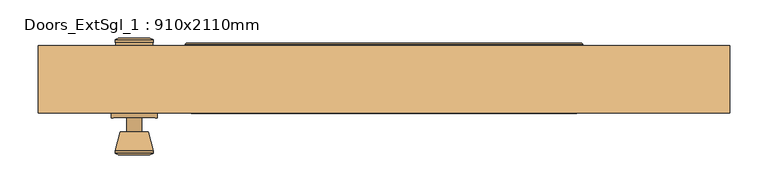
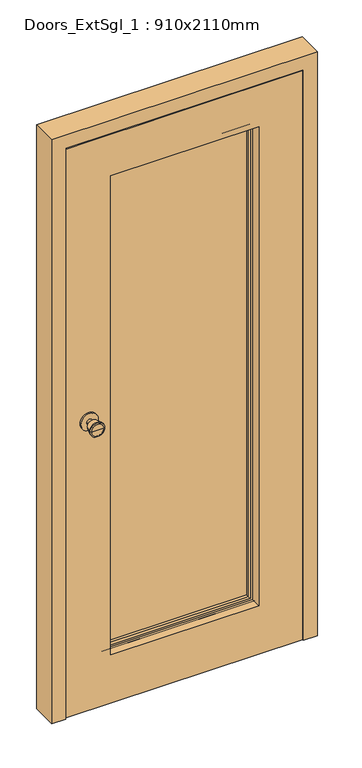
"""IFC4 building model written with IfcOpenShell, lengths in millimetres: door geometry, Doors_ExtSgl_1 : 910x2110mm."""

from ifc_helpers import new_model, si_unit, point, frame, frame_2d, origin, place, context, project, spatial, polyline, circle_curve, ellipse_curve, trimmed, segment, composite_curve, outline, extrude, faceted_brep, source, transform, mapped, element, save
from ifc_brep_helpers import plane_surface, cylinder_surface, revolved_surface, advanced_brep


def doors_extsgl_1_910x2110mm_947c59ca(model_context):
    return source(origin(), model_context, "Body", "SolidModel", [
        advanced_brep(
        [(-328.5, -12.0, 1050.0), (-318.5, -12.0, 1050.0), (-338.5, -12.0, 1050.0), (-308.0241324, -61.0, 1050.0), (-328.5, -61.0, 1050.0), (-348.9758676, -61.0, 1050.0), (-303.5, -59.1721319, 1050.0), (-353.5, -59.1721319, 1050.0), (-303.5, -55.7084537, 1050.0), (-353.5, -55.7084537, 1050.0), (-309.863764, -31.0, 1050.0), (-347.136236, -31.0, 1050.0), (-318.5, -31.0, 1050.0), (-338.5, -31.0, 1050.0)],
        [
            (0, 1),
            (1, 2, circle_curve(frame((-328.5, -12.0, 1050.0), z_axis=(0.0, 1.0, 0.0), x_axis=(-1.0, 0.0, 0.0)), 10.0)),
            (2, 0),
            (2, 1, circle_curve(frame((-328.5, -12.0, 1050.0), z_axis=(0.0, 1.0, 0.0), x_axis=(-1.0, 0.0, 0.0)), 10.0)),
            (3, 4),
            (4, 5),
            (5, 3, circle_curve(frame((-328.5, -61.0, 1050.0), z_axis=(0.0, -1.0, 0.0), x_axis=(-1.0, 0.0, 0.0)), 20.4758676)),
            (3, 5, circle_curve(frame((-328.5, -61.0, 1050.0), z_axis=(0.0, -1.0, 0.0), x_axis=(-1.0, 0.0, 0.0)), 20.4758676)),
            (6, 3),
            (5, 7),
            (7, 6, circle_curve(frame((-328.5, -59.1721319, 1050.0), z_axis=(0.0, -1.0, 0.0), x_axis=(-1.0, 0.0, 0.0)), 25.0)),
            (6, 7, circle_curve(frame((-328.5, -59.1721319, 1050.0), z_axis=(0.0, -1.0, 0.0), x_axis=(-1.0, 0.0, 0.0)), 25.0)),
            (8, 6),
            (7, 9),
            (9, 8, circle_curve(frame((-328.5, -55.7084537, 1050.0), z_axis=(0.0, -1.0, 0.0), x_axis=(-1.0, 0.0, 0.0)), 25.0)),
            (8, 9, circle_curve(frame((-328.5, -55.7084537, 1050.0), z_axis=(0.0, -1.0, 0.0), x_axis=(-1.0, 0.0, 0.0)), 25.0)),
            (10, 8),
            (9, 11),
            (11, 10, circle_curve(frame((-328.5, -31.0, 1050.0), z_axis=(0.0, -1.0, 0.0), x_axis=(-1.0, 0.0, 0.0)), 18.636236)),
            (10, 11, circle_curve(frame((-328.5, -31.0, 1050.0), z_axis=(0.0, -1.0, 0.0), x_axis=(-1.0, 0.0, 0.0)), 18.636236)),
            (12, 10),
            (11, 13),
            (13, 12, circle_curve(frame((-328.5, -31.0, 1050.0), z_axis=(0.0, -1.0, 0.0), x_axis=(-1.0, 0.0, 0.0)), 10.0)),
            (12, 13, circle_curve(frame((-328.5, -31.0, 1050.0), z_axis=(0.0, -1.0, 0.0), x_axis=(-1.0, 0.0, 0.0)), 10.0)),
            (1, 12),
            (13, 2),
        ],
        [
            plane_surface(frame((-328.5, -12.0, 1050.0), z_axis=(0.0, 1.0, 0.0), x_axis=(-1.0, 0.0, 0.0))),
            plane_surface(frame((-328.5, -61.0, 1050.0), z_axis=(0.0, -1.0, 0.0), x_axis=(-1.0, 0.0, 0.0))),
            revolved_surface(polyline([(-348.9758676, -61.0, 1050.0), (-353.5, -59.1721319, 1050.0)]), (-328.5, -12.0, 1050.0), (0.0, 1.0, 0.0)),
            cylinder_surface(frame((-328.5, -12.0, 1050.0), z_axis=(0.0, 1.0, 0.0), x_axis=(-1.0, 0.0, 0.0)), 25.0),
            revolved_surface(polyline([(-353.5, -55.7084537, 1050.0), (-347.136236, -31.0, 1050.0)]), (-328.5, -12.0, 1050.0), (0.0, 1.0, 0.0)),
            plane_surface(frame((-328.5, -31.0, 1050.0), z_axis=(0.0, 1.0, 0.0), x_axis=(-1.0, 0.0, 0.0))),
            cylinder_surface(frame((-328.5, -12.0, 1050.0), z_axis=(0.0, 1.0, 0.0), x_axis=(-1.0, 0.0, 0.0)), 10.0),
        ],
        [
            (0, [[1, 2, 3]]),
            (0, [[-3, 4, -1]]),
            (1, [[5, 6, 7]]),
            (1, [[-6, -5, 8]]),
            (2, [[9, -7, 10, 11]]),
            (2, [[-10, -8, -9, 12]]),
            (3, [[13, -11, 14, 15]]),
            (3, [[-14, -12, -13, 16]]),
            (4, [[17, -15, 18, 19]]),
            (4, [[-18, -16, -17, 20]]),
            (5, [[21, -19, 22, 23]]),
            (5, [[-22, -20, -21, 24]]),
            (6, [[25, -23, 26, -2]]),
            (6, [[-26, -24, -25, -4]]),
        ],
    ),
        extrude(outline(composite_curve([segment(trimmed(circle_curve(frame_2d((1050.0, -328.5)), 30.0), [point((1050.0, -358.5))], [point((1050.0, -298.5))], False, "CARTESIAN"), True, "CONTINUOUS"), segment(trimmed(circle_curve(frame_2d((1050.0, -328.5)), 30.0), [point((1050.0, -298.5))], [point((1050.0, -358.5))], False, "CARTESIAN"), True, "CONTINUOUS")], self_intersect=False)), frame((0.0, -12.0, 0.0), z_axis=(0.0, 1.0, 0.0), x_axis=(0.0, 0.0, 1.0)), (0.0, 0.0, 1.0), 6.0),
        advanced_brep(
        [(-328.5, 44.0, 1050.0), (-338.5, 44.0, 1050.0), (-318.5, 44.0, 1050.0), (-308.0241324, 93.0, 1050.0), (-348.9758676, 93.0, 1050.0), (-328.5, 93.0, 1050.0), (-303.5, 91.1721319, 1050.0), (-353.5, 91.1721319, 1050.0), (-303.5, 87.7084537, 1050.0), (-353.5, 87.7084537, 1050.0), (-309.863764, 63.0, 1050.0), (-347.136236, 63.0, 1050.0), (-318.5, 63.0, 1050.0), (-338.5, 63.0, 1050.0)],
        [
            (0, 1),
            (1, 2, circle_curve(frame((-328.5, 44.0, 1050.0), z_axis=(0.0, -1.0, 0.0), x_axis=(-1.0, 0.0, 0.0)), 10.0)),
            (2, 0),
            (2, 1, circle_curve(frame((-328.5, 44.0, 1050.0), z_axis=(0.0, -1.0, 0.0), x_axis=(-1.0, 0.0, 0.0)), 10.0)),
            (3, 4, circle_curve(frame((-328.5, 93.0, 1050.0), z_axis=(0.0, 1.0, 0.0), x_axis=(-1.0, 0.0, 0.0)), 20.4758676)),
            (4, 5),
            (5, 3),
            (4, 3, circle_curve(frame((-328.5, 93.0, 1050.0), z_axis=(0.0, 1.0, 0.0), x_axis=(-1.0, 0.0, 0.0)), 20.4758676)),
            (6, 7, circle_curve(frame((-328.5, 91.1721319, 1050.0), z_axis=(0.0, 1.0, 0.0), x_axis=(-1.0, 0.0, 0.0)), 25.0)),
            (7, 4),
            (3, 6),
            (7, 6, circle_curve(frame((-328.5, 91.1721319, 1050.0), z_axis=(0.0, 1.0, 0.0), x_axis=(-1.0, 0.0, 0.0)), 25.0)),
            (8, 9, circle_curve(frame((-328.5, 87.7084537, 1050.0), z_axis=(0.0, 1.0, 0.0), x_axis=(-1.0, 0.0, 0.0)), 25.0)),
            (9, 7),
            (6, 8),
            (9, 8, circle_curve(frame((-328.5, 87.7084537, 1050.0), z_axis=(0.0, 1.0, 0.0), x_axis=(-1.0, 0.0, 0.0)), 25.0)),
            (10, 11, circle_curve(frame((-328.5, 63.0, 1050.0), z_axis=(0.0, 1.0, 0.0), x_axis=(-1.0, 0.0, 0.0)), 18.636236)),
            (11, 9),
            (8, 10),
            (11, 10, circle_curve(frame((-328.5, 63.0, 1050.0), z_axis=(0.0, 1.0, 0.0), x_axis=(-1.0, 0.0, 0.0)), 18.636236)),
            (12, 13, circle_curve(frame((-328.5, 63.0, 1050.0), z_axis=(0.0, 1.0, 0.0), x_axis=(-1.0, 0.0, 0.0)), 10.0)),
            (13, 11),
            (10, 12),
            (13, 12, circle_curve(frame((-328.5, 63.0, 1050.0), z_axis=(0.0, 1.0, 0.0), x_axis=(-1.0, 0.0, 0.0)), 10.0)),
            (1, 13),
            (12, 2),
        ],
        [
            plane_surface(frame((-328.5, 44.0, 1050.0), z_axis=(0.0, -1.0, 0.0), x_axis=(-1.0, 0.0, 0.0))),
            plane_surface(frame((-328.5, 93.0, 1050.0), z_axis=(0.0, 1.0, 0.0), x_axis=(-1.0, 0.0, 0.0))),
            revolved_surface(polyline([(-348.9758676, 93.0, 1050.0), (-353.5, 91.1721319, 1050.0)]), (-328.5, 44.0, 1050.0), (0.0, -1.0, 0.0)),
            cylinder_surface(frame((-328.5, 44.0, 1050.0), z_axis=(0.0, -1.0, 0.0), x_axis=(-1.0, 0.0, 0.0)), 25.0),
            revolved_surface(polyline([(-353.5, 87.7084537, 1050.0), (-347.136236, 63.0, 1050.0)]), (-328.5, 44.0, 1050.0), (0.0, -1.0, 0.0)),
            plane_surface(frame((-328.5, 63.0, 1050.0), z_axis=(0.0, -1.0, 0.0), x_axis=(-1.0, 0.0, 0.0))),
            cylinder_surface(frame((-328.5, 44.0, 1050.0), z_axis=(0.0, -1.0, 0.0), x_axis=(-1.0, 0.0, 0.0)), 10.0),
        ],
        [
            (0, [[1, 2, 3]]),
            (0, [[-3, 4, -1]]),
            (1, [[5, 6, 7]]),
            (1, [[8, -7, -6]]),
            (2, [[9, 10, -5, 11]]),
            (2, [[12, -11, -8, -10]]),
            (3, [[13, 14, -9, 15]]),
            (3, [[16, -15, -12, -14]]),
            (4, [[17, 18, -13, 19]]),
            (4, [[20, -19, -16, -18]]),
            (5, [[21, 22, -17, 23]]),
            (5, [[24, -23, -20, -22]]),
            (6, [[-2, 25, -21, 26]]),
            (6, [[-4, -26, -24, -25]]),
        ],
    ),
        extrude(outline(composite_curve([segment(trimmed(circle_curve(frame_2d((1050.0, -328.5)), 30.0), [point((1050.0, -358.5))], [point((1050.0, -298.5))], False, "CARTESIAN"), True, "CONTINUOUS"), segment(trimmed(circle_curve(frame_2d((1050.0, -328.5)), 30.0), [point((1050.0, -298.5))], [point((1050.0, -358.5))], False, "CARTESIAN"), True, "CONTINUOUS")], self_intersect=False)), frame((0.0, 38.0, 0.0), z_axis=(0.0, 1.0, 0.0), x_axis=(0.0, 0.0, 1.0)), (0.0, 0.0, 1.0), 6.0),
        faceted_brep([(384.5, 83.0, 0.0), (455.0, 83.0, 0.0), (455.0, -6.0, 0.0), (406.5, -6.0, 0.0), (406.5, 41.0, 0.0), (384.5, 41.0, 0.0), (384.5, 83.0, 2039.5), (-384.5, 83.0, 2039.5), (-384.5, 83.0, 0.0), (-455.0, 83.0, 0.0), (-455.0, 83.0, 2110.0), (455.0, 83.0, 2110.0), (455.0, -6.0, 2110.0), (-455.0, -6.0, 2110.0), (-455.0, -6.0, 0.0), (-406.5, -6.0, 0.0), (-406.5, -6.0, 2061.5), (406.5, -6.0, 2061.5), (406.5, 41.0, 2061.5), (-406.5, 41.0, 2061.5), (-406.5, 41.0, 0.0), (-384.5, 41.0, 0.0), (-384.5, 41.0, 2039.5), (384.5, 41.0, 2039.5)], [[[0, 1, 2, 3, 4, 5]], [[1, 0, 6, 7, 8, 9, 10, 11]], [[2, 1, 11, 12]], [[3, 2, 12, 13, 14, 15, 16, 17]], [[4, 3, 17, 18]], [[5, 4, 18, 19, 20, 21, 22, 23]], [[0, 5, 23, 6]], [[7, 22, 21, 8]], [[8, 21, 20, 15, 14, 9]], [[13, 10, 9, 14]], [[19, 16, 15, 20]], [[12, 11, 10, 13]], [[18, 17, 16, 19]], [[6, 23, 22, 7]]]),
        extrude(outline(polyline([(4.0, 403.5), (2058.5, 403.5), (2058.5, -404.4250294), (4.0, -404.4250294), (4.0, 403.5)]), holes=[polyline([(179.0, -253.5), (1908.5, -253.5), (1908.5, 253.5), (179.0, 253.5), (179.0, -253.5)])]), frame((0.0, -6.0, 0.0), z_axis=(0.0, 1.0, 0.0), x_axis=(0.0, 0.0, 1.0)), (0.0, 0.0, 1.0), 44.0),
        extrude(outline(polyline([(-253.5, 70.0), (253.5, 70.0), (253.5, 46.0), (-253.5, 46.0), (-253.5, 70.0)])), frame((0.0, 0.0, 179.0), z_axis=(0.0, 0.0, 1.0), x_axis=(1.0, 0.0, 0.0)), (0.0, 0.0, 1.0), 1729.5),
        advanced_brep(
        [(-261.5, 84.0, 171.0), (-261.5, 80.0, 171.0), (-261.5, 80.0, 1916.5), (-261.5, 84.0, 1916.5), (-259.5, 86.0, 173.0), (-259.5, 86.0, 1914.5), (-241.5, 81.0, 191.0), (-246.5, 86.0, 186.0), (-246.5, 86.0, 1901.5), (-241.5, 81.0, 1896.5), (-241.5, 70.0, 191.0), (-241.5, 70.0, 1896.5), (-253.5, 80.0, 179.0), (-253.5, 70.0, 179.0), (-253.5, 70.0, 1908.5), (-253.5, 80.0, 1908.5), (261.5, 80.0, 1916.5), (261.5, 84.0, 1916.5), (259.5, 86.0, 1914.5), (246.5, 86.0, 1901.5), (241.5, 81.0, 1896.5), (241.5, 70.0, 1896.5), (253.5, 70.0, 1908.5), (253.5, 80.0, 1908.5), (261.5, 80.0, 171.0), (261.5, 84.0, 171.0), (259.5, 86.0, 173.0), (246.5, 86.0, 186.0), (241.5, 81.0, 191.0), (241.5, 70.0, 191.0), (253.5, 70.0, 179.0), (253.5, 80.0, 179.0)],
        [
            (0, 1),
            (1, 2),
            (2, 3),
            (3, 0),
            (4, 0, ellipse_curve(frame((-259.5, 84.0, 173.0), z_axis=(-0.7071067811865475, 0.0, 0.7071067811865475), x_axis=(-0.7071067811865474, 0.0, -0.7071067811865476)), 2.8284271, 2.0)),
            (3, 5, ellipse_curve(frame((-259.5, 84.0, 1914.5), z_axis=(-0.7071067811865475, 0.0, -0.7071067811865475), x_axis=(0.7071067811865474, 0.0, -0.7071067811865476)), 2.8284271, 2.0)),
            (5, 4),
            (6, 7, ellipse_curve(frame((-246.5, 81.0, 186.0), z_axis=(-0.7071067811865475, 0.0, 0.7071067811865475), x_axis=(-0.7071067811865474, 0.0, -0.7071067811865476)), 7.0710678, 5.0)),
            (7, 8),
            (8, 9, ellipse_curve(frame((-246.5, 81.0, 1901.5), z_axis=(-0.7071067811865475, 0.0, -0.7071067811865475), x_axis=(0.7071067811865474, 0.0, -0.7071067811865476)), 7.0710678, 5.0)),
            (9, 6),
            (10, 6),
            (9, 11),
            (11, 10),
            (12, 13),
            (13, 14),
            (14, 15),
            (15, 12),
            (2, 16),
            (16, 17),
            (17, 3),
            (17, 18, ellipse_curve(frame((259.5, 84.0, 1914.5), z_axis=(-0.7071067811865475, 0.0, 0.7071067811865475), x_axis=(-0.7071067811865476, 0.0, -0.7071067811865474)), 2.8284271, 2.0)),
            (18, 5),
            (8, 19),
            (19, 20, ellipse_curve(frame((246.5, 81.0, 1901.5), z_axis=(-0.7071067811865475, 0.0, 0.7071067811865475), x_axis=(-0.7071067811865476, 0.0, -0.7071067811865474)), 7.0710678, 5.0)),
            (20, 9),
            (20, 21),
            (21, 11),
            (14, 22),
            (22, 23),
            (23, 15),
            (16, 24),
            (24, 25),
            (25, 17),
            (25, 26, ellipse_curve(frame((259.5, 84.0, 173.0), z_axis=(0.7071067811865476, 0.0, 0.7071067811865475), x_axis=(-0.7071067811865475, 0.0, 0.7071067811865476)), 2.8284271, 2.0)),
            (26, 18),
            (19, 27),
            (27, 28, ellipse_curve(frame((246.5, 81.0, 186.0), z_axis=(0.7071067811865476, 0.0, 0.7071067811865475), x_axis=(-0.7071067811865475, 0.0, 0.7071067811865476)), 7.0710678, 5.0)),
            (28, 20),
            (28, 29),
            (29, 21),
            (22, 30),
            (30, 31),
            (31, 23),
            (24, 1),
            (0, 25),
            (4, 26),
            (7, 27),
            (6, 28),
            (10, 29),
            (13, 30),
            (12, 31),
        ],
        [
            plane_surface(frame((-261.5, 80.0, 171.0), z_axis=(-1.0, 0.0, 0.0), x_axis=(0.0, 0.0, 1.0))),
            cylinder_surface(frame((-259.5, 84.0, 179.0), z_axis=(0.0, 0.0, -1.0), x_axis=(-1.0, 0.0, 0.0)), 2.0),
            cylinder_surface(frame((-246.5, 81.0, 179.0), z_axis=(0.0, 0.0, -1.0), x_axis=(-1.0, 0.0, 0.0)), 5.0),
            plane_surface(frame((-241.5, 81.0, 191.0), z_axis=(1.0, 0.0, 0.0), x_axis=(0.0, 0.0, 1.0))),
            plane_surface(frame((-253.5, 70.0, 179.0), z_axis=(-1.0, 0.0, 0.0), x_axis=(0.0, 0.0, 1.0))),
            plane_surface(frame((-261.5, 80.0, 1916.5), z_axis=(0.0, 0.0, 1.0), x_axis=(1.0, 0.0, 0.0))),
            cylinder_surface(frame((-253.5, 84.0, 1914.5), z_axis=(-1.0, 0.0, 0.0), x_axis=(0.0, 0.0, 1.0)), 2.0),
            cylinder_surface(frame((-253.5, 81.0, 1901.5), z_axis=(-1.0, 0.0, 0.0), x_axis=(0.0, 0.0, 1.0)), 5.0),
            plane_surface(frame((-241.5, 81.0, 1896.5), z_axis=(0.0, 0.0, -1.0), x_axis=(1.0, 0.0, 0.0))),
            plane_surface(frame((-253.5, 70.0, 1908.5), z_axis=(0.0, 0.0, 1.0), x_axis=(1.0, 0.0, 0.0))),
            plane_surface(frame((261.5, 80.0, 1916.5), z_axis=(1.0, 0.0, 0.0), x_axis=(0.0, 0.0, -1.0))),
            cylinder_surface(frame((259.5, 84.0, 1908.5), z_axis=(0.0, 0.0, 1.0), x_axis=(1.0, 0.0, 0.0)), 2.0),
            cylinder_surface(frame((246.5, 81.0, 1908.5), z_axis=(0.0, 0.0, 1.0), x_axis=(1.0, 0.0, 0.0)), 5.0),
            plane_surface(frame((241.5, 81.0, 1896.5), z_axis=(-1.0, 0.0, 0.0), x_axis=(0.0, 0.0, -1.0))),
            plane_surface(frame((253.5, 70.0, 1908.5), z_axis=(1.0, 0.0, 0.0), x_axis=(0.0, 0.0, -1.0))),
            plane_surface(frame((261.5, 80.0, 171.0), z_axis=(0.0, 0.0, -1.0), x_axis=(-1.0, 0.0, 0.0))),
            cylinder_surface(frame((253.5, 84.0, 173.0), z_axis=(1.0, 0.0, 0.0), x_axis=(0.0, 0.0, -1.0)), 2.0),
            plane_surface(frame((259.5, 86.0, 173.0), z_axis=(0.0, 1.0, 0.0), x_axis=(-1.0, 0.0, 0.0))),
            cylinder_surface(frame((253.5, 81.0, 186.0), z_axis=(1.0, 0.0, 0.0), x_axis=(0.0, 0.0, -1.0)), 5.0),
            plane_surface(frame((241.5, 81.0, 191.0), z_axis=(0.0, 0.0, 1.0), x_axis=(-1.0, 0.0, 0.0))),
            plane_surface(frame((241.5, 70.0, 191.0), z_axis=(0.0, -1.0, 0.0), x_axis=(-1.0, 0.0, 0.0))),
            plane_surface(frame((253.5, 70.0, 179.0), z_axis=(0.0, 0.0, -1.0), x_axis=(-1.0, 0.0, 0.0))),
            plane_surface(frame((253.5, 80.0, 179.0), z_axis=(0.0, -1.0, 0.0), x_axis=(-1.0, 0.0, 0.0))),
        ],
        [
            (0, [[1, 2, 3, 4]]),
            (1, [[5, -4, 6, 7]]),
            (2, [[8, 9, 10, 11]]),
            (3, [[12, -11, 13, 14]]),
            (4, [[15, 16, 17, 18]]),
            (5, [[-3, 19, 20, 21]]),
            (6, [[-6, -21, 22, 23]]),
            (7, [[-10, 24, 25, 26]]),
            (8, [[-13, -26, 27, 28]]),
            (9, [[-17, 29, 30, 31]]),
            (10, [[-20, 32, 33, 34]]),
            (11, [[-22, -34, 35, 36]]),
            (12, [[-25, 37, 38, 39]]),
            (13, [[-27, -39, 40, 41]]),
            (14, [[-30, 42, 43, 44]]),
            (15, [[-33, 45, -1, 46]]),
            (16, [[-35, -46, -5, 47]]),
            (17, [[-23, -36, -47, -7], [48, -37, -24, -9]]),
            (18, [[-38, -48, -8, 49]]),
            (19, [[-40, -49, -12, 50]]),
            (20, [[51, -42, -29, -16], [-28, -41, -50, -14]]),
            (21, [[-43, -51, -15, 52]]),
            (22, [[-45, -32, -19, -2], [-31, -44, -52, -18]]),
        ],
    ),
        advanced_brep(
        [(261.5, 32.0, 171.0), (261.5, 36.0, 171.0), (261.5, 36.0, 1916.5), (261.5, 32.0, 1916.5), (259.5, 30.0, 173.0), (259.5, 30.0, 1914.5), (241.5, 35.0, 191.0), (246.5, 30.0, 186.0), (246.5, 30.0, 1901.5), (241.5, 35.0, 1896.5), (241.5, 46.0, 191.0), (241.5, 46.0, 1896.5), (253.5, 36.0, 179.0), (253.5, 46.0, 179.0), (253.5, 46.0, 1908.5), (253.5, 36.0, 1908.5), (-261.5, 36.0, 1916.5), (-261.5, 32.0, 1916.5), (-259.5, 30.0, 1914.5), (-246.5, 30.0, 1901.5), (-241.5, 35.0, 1896.5), (-241.5, 46.0, 1896.5), (-253.5, 46.0, 1908.5), (-253.5, 36.0, 1908.5), (-261.5, 36.0, 171.0), (-261.5, 32.0, 171.0), (-259.5, 30.0, 173.0), (-246.5, 30.0, 186.0), (-241.5, 35.0, 191.0), (-241.5, 46.0, 191.0), (-253.5, 46.0, 179.0), (-253.5, 36.0, 179.0)],
        [
            (0, 1),
            (1, 2),
            (2, 3),
            (3, 0),
            (4, 0, ellipse_curve(frame((259.5, 32.0, 173.0), z_axis=(0.7071067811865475, 0.0, 0.7071067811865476), x_axis=(0.7071067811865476, 0.0, -0.7071067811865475)), 2.8284271, 2.0)),
            (3, 5, ellipse_curve(frame((259.5, 32.0, 1914.5), z_axis=(0.7071067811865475, 0.0, -0.7071067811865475), x_axis=(-0.7071067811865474, 0.0, -0.7071067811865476)), 2.8284271, 2.0)),
            (5, 4),
            (6, 7, ellipse_curve(frame((246.5, 35.0, 186.0), z_axis=(0.7071067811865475, 0.0, 0.7071067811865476), x_axis=(0.7071067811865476, 0.0, -0.7071067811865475)), 7.0710678, 5.0)),
            (7, 8),
            (8, 9, ellipse_curve(frame((246.5, 35.0, 1901.5), z_axis=(0.7071067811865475, 0.0, -0.7071067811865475), x_axis=(-0.7071067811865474, 0.0, -0.7071067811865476)), 7.0710678, 5.0)),
            (9, 6),
            (10, 6),
            (9, 11),
            (11, 10),
            (12, 13),
            (13, 14),
            (14, 15),
            (15, 12),
            (2, 16),
            (16, 17),
            (17, 3),
            (17, 18, ellipse_curve(frame((-259.5, 32.0, 1914.5), z_axis=(0.7071067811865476, 0.0, 0.7071067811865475), x_axis=(0.7071067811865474, 0.0, -0.7071067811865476)), 2.8284271, 2.0)),
            (18, 5),
            (8, 19),
            (19, 20, ellipse_curve(frame((-246.5, 35.0, 1901.5), z_axis=(0.7071067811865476, 0.0, 0.7071067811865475), x_axis=(0.7071067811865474, 0.0, -0.7071067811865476)), 7.0710678, 5.0)),
            (20, 9),
            (20, 21),
            (21, 11),
            (14, 22),
            (22, 23),
            (23, 15),
            (16, 24),
            (24, 25),
            (25, 17),
            (25, 26, ellipse_curve(frame((-259.5, 32.0, 173.0), z_axis=(-0.7071067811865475, 0.0, 0.7071067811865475), x_axis=(0.7071067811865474, 0.0, 0.7071067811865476)), 2.8284271, 2.0)),
            (26, 18),
            (19, 27),
            (27, 28, ellipse_curve(frame((-246.5, 35.0, 186.0), z_axis=(-0.7071067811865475, 0.0, 0.7071067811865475), x_axis=(0.7071067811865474, 0.0, 0.7071067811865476)), 7.0710678, 5.0)),
            (28, 20),
            (28, 29),
            (29, 21),
            (22, 30),
            (30, 31),
            (31, 23),
            (24, 1),
            (0, 25),
            (4, 26),
            (7, 27),
            (6, 28),
            (10, 29),
            (13, 30),
            (12, 31),
        ],
        [
            plane_surface(frame((261.5, 36.0, 171.0), z_axis=(1.0, 0.0, 0.0), x_axis=(0.0, 0.0, 1.0))),
            cylinder_surface(frame((259.5, 32.0, 179.0), z_axis=(0.0, 0.0, -1.0), x_axis=(1.0, 0.0, 0.0)), 2.0),
            cylinder_surface(frame((246.5, 35.0, 179.0), z_axis=(0.0, 0.0, -1.0), x_axis=(1.0, 0.0, 0.0)), 5.0),
            plane_surface(frame((241.5, 35.0, 191.0), z_axis=(-1.0, 0.0, 0.0), x_axis=(0.0, 0.0, 1.0))),
            plane_surface(frame((253.5, 46.0, 179.0), z_axis=(1.0, 0.0, 0.0), x_axis=(0.0, 0.0, 1.0))),
            plane_surface(frame((261.5, 36.0, 1916.5), z_axis=(0.0, 0.0, 1.0), x_axis=(-1.0, 0.0, 0.0))),
            cylinder_surface(frame((253.5, 32.0, 1914.5), z_axis=(1.0, 0.0, 0.0), x_axis=(0.0, 0.0, 1.0)), 2.0),
            cylinder_surface(frame((253.5, 35.0, 1901.5), z_axis=(1.0, 0.0, 0.0), x_axis=(0.0, 0.0, 1.0)), 5.0),
            plane_surface(frame((241.5, 35.0, 1896.5), z_axis=(0.0, 0.0, -1.0), x_axis=(-1.0, 0.0, 0.0))),
            plane_surface(frame((253.5, 46.0, 1908.5), z_axis=(0.0, 0.0, 1.0), x_axis=(-1.0, 0.0, 0.0))),
            plane_surface(frame((-261.5, 36.0, 1916.5), z_axis=(-1.0, 0.0, 0.0), x_axis=(0.0, 0.0, -1.0))),
            cylinder_surface(frame((-259.5, 32.0, 1908.5), z_axis=(0.0, 0.0, 1.0), x_axis=(-1.0, 0.0, 0.0)), 2.0),
            cylinder_surface(frame((-246.5, 35.0, 1908.5), z_axis=(0.0, 0.0, 1.0), x_axis=(-1.0, 0.0, 0.0)), 5.0),
            plane_surface(frame((-241.5, 35.0, 1896.5), z_axis=(1.0, 0.0, 0.0), x_axis=(0.0, 0.0, -1.0))),
            plane_surface(frame((-253.5, 46.0, 1908.5), z_axis=(-1.0, 0.0, 0.0), x_axis=(0.0, 0.0, -1.0))),
            plane_surface(frame((-261.5, 36.0, 171.0), z_axis=(0.0, 0.0, -1.0), x_axis=(1.0, 0.0, 0.0))),
            cylinder_surface(frame((-253.5, 32.0, 173.0), z_axis=(-1.0, 0.0, 0.0), x_axis=(0.0, 0.0, -1.0)), 2.0),
            plane_surface(frame((-259.5, 30.0, 173.0), z_axis=(0.0, -1.0, 0.0), x_axis=(1.0, 0.0, 0.0))),
            cylinder_surface(frame((-253.5, 35.0, 186.0), z_axis=(-1.0, 0.0, 0.0), x_axis=(0.0, 0.0, -1.0)), 5.0),
            plane_surface(frame((-241.5, 35.0, 191.0), z_axis=(0.0, 0.0, 1.0), x_axis=(1.0, 0.0, 0.0))),
            plane_surface(frame((-241.5, 46.0, 191.0), z_axis=(0.0, 1.0, 0.0), x_axis=(1.0, 0.0, 0.0))),
            plane_surface(frame((-253.5, 46.0, 179.0), z_axis=(0.0, 0.0, -1.0), x_axis=(1.0, 0.0, 0.0))),
            plane_surface(frame((-253.5, 36.0, 179.0), z_axis=(0.0, 1.0, 0.0), x_axis=(1.0, 0.0, 0.0))),
        ],
        [
            (0, [[1, 2, 3, 4]]),
            (1, [[5, -4, 6, 7]]),
            (2, [[8, 9, 10, 11]]),
            (3, [[12, -11, 13, 14]]),
            (4, [[15, 16, 17, 18]]),
            (5, [[-3, 19, 20, 21]]),
            (6, [[-6, -21, 22, 23]]),
            (7, [[-10, 24, 25, 26]]),
            (8, [[-13, -26, 27, 28]]),
            (9, [[-17, 29, 30, 31]]),
            (10, [[-20, 32, 33, 34]]),
            (11, [[-22, -34, 35, 36]]),
            (12, [[-25, 37, 38, 39]]),
            (13, [[-27, -39, 40, 41]]),
            (14, [[-30, 42, 43, 44]]),
            (15, [[-33, 45, -1, 46]]),
            (16, [[-35, -46, -5, 47]]),
            (17, [[-23, -36, -47, -7], [48, -37, -24, -9]]),
            (18, [[-38, -48, -8, 49]]),
            (19, [[-40, -49, -12, 50]]),
            (20, [[51, -42, -29, -16], [-28, -41, -50, -14]]),
            (21, [[-43, -51, -15, 52]]),
            (22, [[-45, -32, -19, -2], [-31, -44, -52, -18]]),
        ],
    ),
    ])


if __name__ == "__main__":
    model = new_model("IFC4")
    model_context = context("Model", 3, world=origin())
    ifc_project = project(units=[si_unit("LENGTHUNIT", "METRE", prefix="MILLI")], contexts=[model_context])
    site = spatial("IfcSite", under=ifc_project)
    building = spatial("IfcBuilding", under=site)
    placement = place(None, origin())
    doors_extsgl_1_910x2110mm_shape = doors_extsgl_1_910x2110mm_947c59ca(model_context)
    element("IfcDoor", 1, ObjectType="Doors_ExtSgl_1 : 910x2110mm", at=placement, inside=building, context=model_context, shape_type="MappedRepresentation", body=[
        mapped(doors_extsgl_1_910x2110mm_shape, transform((0.0, 0.0, 0.0), x_axis=(1.0, 0.0, 0.0), y_axis=(0.0, 1.0, 0.0), z_axis=(0.0, 0.0, 1.0))),
    ])
    save(model, "model.ifc")
